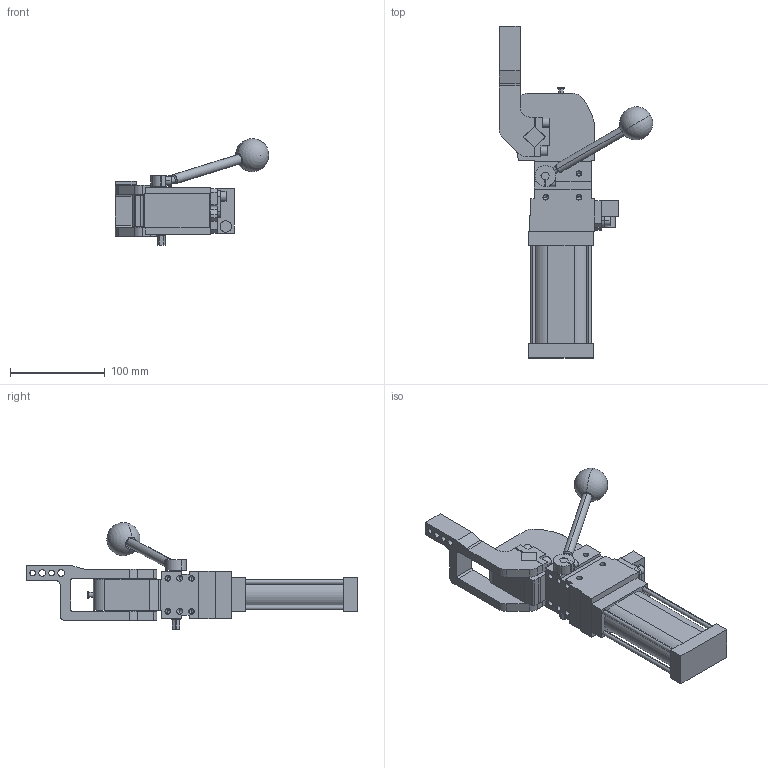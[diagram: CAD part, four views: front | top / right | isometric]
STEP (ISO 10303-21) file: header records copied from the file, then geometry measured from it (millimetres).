
FILE_DESCRIPTION (( 'STEP AP214' ), '1' );
FILE_NAME ('cplm40lah1si1g_108.STEP', '2021-05-25T11:58:46', ( '' ), ( '' ), 'SwSTEP 2.0', 'SolidWorks 2021', '' );
FILE_SCHEMA (( 'AUTOMOTIVE_DESIGN' ));
Length unit declared in the file: millimetre
Products named in the file (6): piastra_blocchetto_cpl40; meccanica_cplm40; blocchetto_VEP_0_cpl40; leva_v1d_cpl40; cplm40lah1si1g_108; comando_manuale_cplm_40
Assembly tree (5 placements, depth 2):
  cplm40lah1si1g_108
    meccanica_cplm40
    blocchetto_VEP_0_cpl40
    piastra_blocchetto_cpl40
    leva_v1d_cpl40
    comando_manuale_cplm_40
Bounding box: 161.69 x 350 x 112.66 mm (x, y, z)
Volume: 808327.5 mm3; surface area: 126749 mm2
Topology: 6 solids, 6 shells, 467 faces, 1201 edges, 757 vertices
Faces by surface type: plane 259, cylinder 160, cone 46, sphere 2
Entity records: 15517 total; most frequent: CARTESIAN_POINT 2501, DIRECTION 2476, ORIENTED_EDGE 2308, EDGE_CURVE 1154, AXIS2_PLACEMENT_3D 851, LINE 774, VECTOR 774, VERTEX_POINT 754
